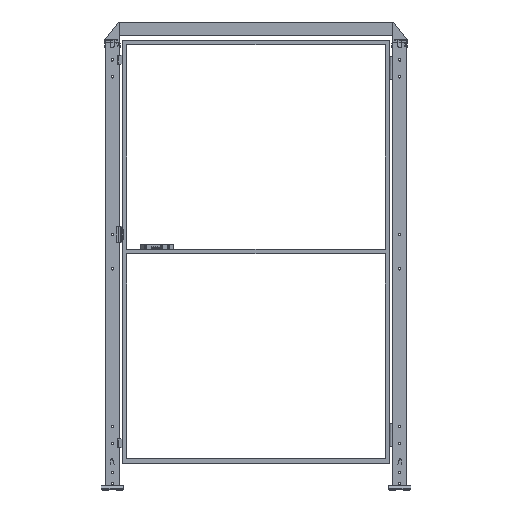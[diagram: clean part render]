
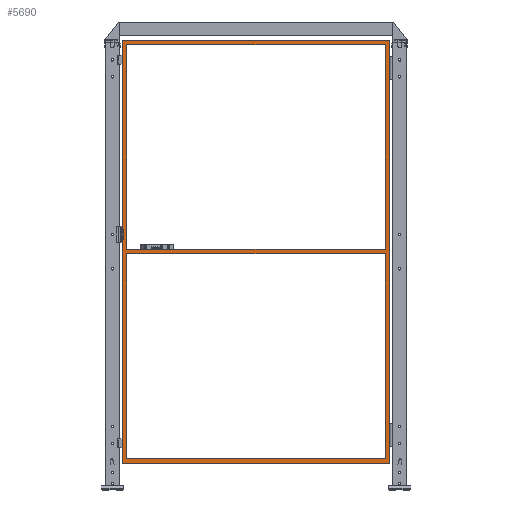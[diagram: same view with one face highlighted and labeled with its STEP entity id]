
A CAD part, top view. The second image highlights one B-rep face of the part: STEP entity #5690.
In plain terms, the highlighted planar face has unit normal (0, 0, 1).
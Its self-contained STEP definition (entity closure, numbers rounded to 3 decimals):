
#5690=ADVANCED_FACE('',(#11648,#11649,#11650),#11651,.F.);
#11648=FACE_BOUND('',#19171,.T.);
#11649=FACE_OUTER_BOUND('',#19172,.T.);
#11650=FACE_BOUND('',#19173,.T.);
#11651=PLANE('',#19174);
#19171=EDGE_LOOP('',(#35965,#35966,#35967,#35968));
#19172=EDGE_LOOP('',(#35969,#35970,#35971,#35972));
#19173=EDGE_LOOP('',(#35973,#35974,#35975,#35976));
#19174=AXIS2_PLACEMENT_3D('',#35977,#35978,#35979);
#35965=ORIENTED_EDGE('',*,*,#42847,.F.);
#35966=ORIENTED_EDGE('',*,*,#42853,.T.);
#35967=ORIENTED_EDGE('',*,*,#42875,.T.);
#35968=ORIENTED_EDGE('',*,*,#42880,.F.);
#35969=ORIENTED_EDGE('',*,*,#42891,.F.);
#35970=ORIENTED_EDGE('',*,*,#42885,.F.);
#35971=ORIENTED_EDGE('',*,*,#42855,.F.);
#35972=ORIENTED_EDGE('',*,*,#42889,.F.);
#35973=ORIENTED_EDGE('',*,*,#42877,.F.);
#35974=ORIENTED_EDGE('',*,*,#42872,.F.);
#35975=ORIENTED_EDGE('',*,*,#42883,.T.);
#35976=ORIENTED_EDGE('',*,*,#42892,.T.);
#35977=CARTESIAN_POINT('',(615.0,130.0,10.0));
#35978=DIRECTION('',(0.,0.0,-1.0));
#35979=DIRECTION('',(-1.0,0.0,0.));
#42847=EDGE_CURVE('',#52941,#52944,#52945,.T.);
#42853=EDGE_CURVE('',#52941,#52952,#52954,.T.);
#42855=EDGE_CURVE('',#52956,#52957,#52958,.T.);
#42872=EDGE_CURVE('',#52984,#52982,#52986,.T.);
#42875=EDGE_CURVE('',#52952,#52988,#52990,.T.);
#42877=EDGE_CURVE('',#52982,#52992,#52993,.T.);
#42880=EDGE_CURVE('',#52944,#52988,#52996,.T.);
#42883=EDGE_CURVE('',#52984,#52998,#53000,.T.);
#42885=EDGE_CURVE('',#52957,#53002,#53003,.T.);
#42889=EDGE_CURVE('',#53006,#52956,#53008,.T.);
#42891=EDGE_CURVE('',#53002,#53006,#53010,.T.);
#42892=EDGE_CURVE('',#52998,#52992,#53011,.T.);
#52941=VERTEX_POINT('',#68243);
#52944=VERTEX_POINT('',#68247);
#52945=LINE('',#68248,#68249);
#52952=VERTEX_POINT('',#68259);
#52954=LINE('',#68262,#68263);
#52956=VERTEX_POINT('',#68265);
#52957=VERTEX_POINT('',#68266);
#52958=LINE('',#68267,#68268);
#52982=VERTEX_POINT('',#68304);
#52984=VERTEX_POINT('',#68307);
#52986=LINE('',#68310,#68311);
#52988=VERTEX_POINT('',#68313);
#52990=LINE('',#68316,#68317);
#52992=VERTEX_POINT('',#68319);
#52993=LINE('',#68320,#68321);
#52996=LINE('',#68325,#68326);
#52998=VERTEX_POINT('',#68328);
#53000=LINE('',#68331,#68332);
#53002=VERTEX_POINT('',#68334);
#53003=LINE('',#68335,#68336);
#53006=VERTEX_POINT('',#68340);
#53008=LINE('',#68343,#68344);
#53010=LINE('',#68346,#68347);
#53011=LINE('',#68348,#68349);
#68243=CARTESIAN_POINT('',(1195.0,2000.0,10.));
#68247=CARTESIAN_POINT('',(35.,2000.0,10.0));
#68248=CARTESIAN_POINT('',(615.0,2000.0,10.0));
#68249=VECTOR('',#75637,1.0);
#68259=CARTESIAN_POINT('',(1195.0,1080.0,10.));
#68262=CARTESIAN_POINT('',(1195.0,1070.0,10.));
#68263=VECTOR('',#75642,1.0);
#68265=CARTESIAN_POINT('',(15.0,120.0,10.0));
#68266=CARTESIAN_POINT('',(15.,2020.0,10.0));
#68267=CARTESIAN_POINT('',(15.0,130.0,10.0));
#68268=VECTOR('',#75643,1.0);
#68304=CARTESIAN_POINT('',(35.,1060.0,10.0));
#68307=CARTESIAN_POINT('',(1195.0,1060.0,10.));
#68310=CARTESIAN_POINT('',(615.0,1060.0,10.0));
#68311=VECTOR('',#75658,1.0);
#68313=CARTESIAN_POINT('',(35.0,1080.0,10.0));
#68316=CARTESIAN_POINT('',(615.0,1080.0,10.0));
#68317=VECTOR('',#75660,1.0);
#68319=CARTESIAN_POINT('',(35.,140.0,10.0));
#68320=CARTESIAN_POINT('',(35.,1070.0,10.0));
#68321=VECTOR('',#75661,1.0);
#68325=CARTESIAN_POINT('',(35.,1070.0,10.0));
#68326=VECTOR('',#75663,1.0);
#68328=CARTESIAN_POINT('',(1195.0,140.0,10.));
#68331=CARTESIAN_POINT('',(1195.0,1070.0,10.));
#68332=VECTOR('',#75665,1.0);
#68334=CARTESIAN_POINT('',(1215.0,2020.0,10.));
#68335=CARTESIAN_POINT('',(25.,2020.0,10.0));
#68336=VECTOR('',#75666,1.0);
#68340=CARTESIAN_POINT('',(1215.0,120.0,10.));
#68343=CARTESIAN_POINT('',(615.0,120.0,10.0));
#68344=VECTOR('',#75669,1.0);
#68346=CARTESIAN_POINT('',(1215.0,1070.0,10.));
#68347=VECTOR('',#75670,1.0);
#68348=CARTESIAN_POINT('',(615.0,140.0,10.0));
#68349=VECTOR('',#75671,1.0);
#75637=DIRECTION('',(-1.0,0.0,0.));
#75642=DIRECTION('',(0.,-1.0,0.));
#75643=DIRECTION('',(0.0,1.0,0.0));
#75658=DIRECTION('',(-1.0,0.0,0.));
#75660=DIRECTION('',(-1.0,0.0,0.));
#75661=DIRECTION('',(0.,-1.0,0.));
#75663=DIRECTION('',(0.,-1.0,0.));
#75665=DIRECTION('',(0.,-1.0,0.));
#75666=DIRECTION('',(1.0,0.,0.));
#75669=DIRECTION('',(-1.0,0.0,0.));
#75670=DIRECTION('',(0.,-1.0,0.));
#75671=DIRECTION('',(-1.0,0.0,0.));
